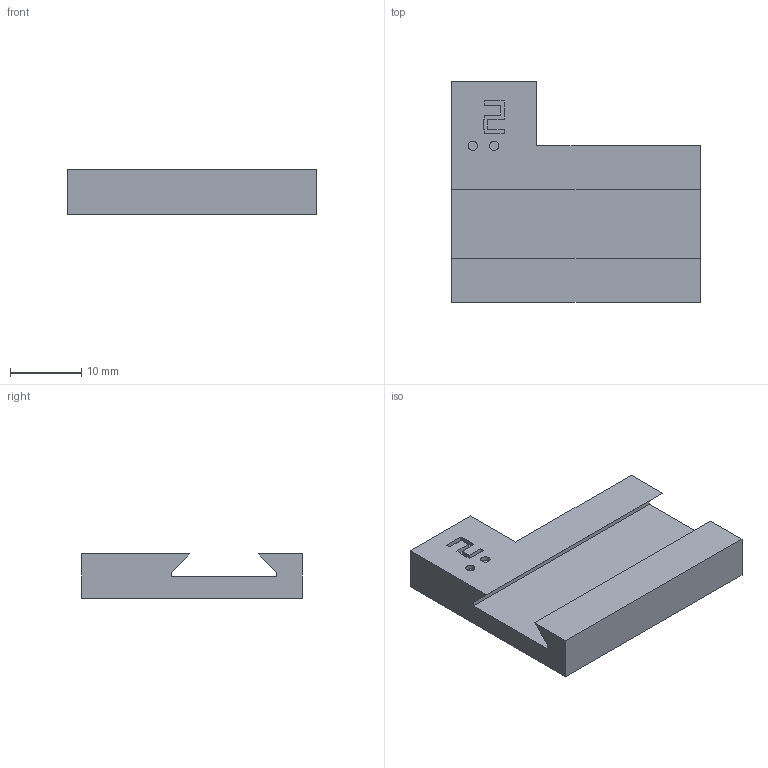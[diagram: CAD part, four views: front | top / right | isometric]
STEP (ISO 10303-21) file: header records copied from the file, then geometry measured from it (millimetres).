
FILE_DESCRIPTION(('Open CASCADE Model'),'2;1');
FILE_NAME('Open CASCADE Shape Model','2026-09-13T15:34:20',('Author'),( 'Open CASCADE'),'Open CASCADE STEP processor 7.9','build123d', 'Unknown');
FILE_SCHEMA(('AUTOMOTIVE_DESIGN { 1 0 10303 214 1 1 1 1 }'));
Length unit declared in the file: millimetre
Products named in the file (1): COMPOUND
Bounding box: 35 x 31 x 6.2 mm (x, y, z)
Volume: 4017 mm3; surface area: 2994.1 mm2
Topology: 1 solids, 1 shells, 39 faces, 102 edges, 68 vertices
Faces by surface type: plane 37, cylinder 2
Full cylindrical faces by diameter (mm): 1.3 x2
Entity records: 2459 total; most frequent: CARTESIAN_POINT 489, DIRECTION 325, LINE 235, VECTOR 235, ORIENTED_EDGE 204, PCURVE 204, DEFINITIONAL_REPRESENTATION 204, EDGE_CURVE 102
